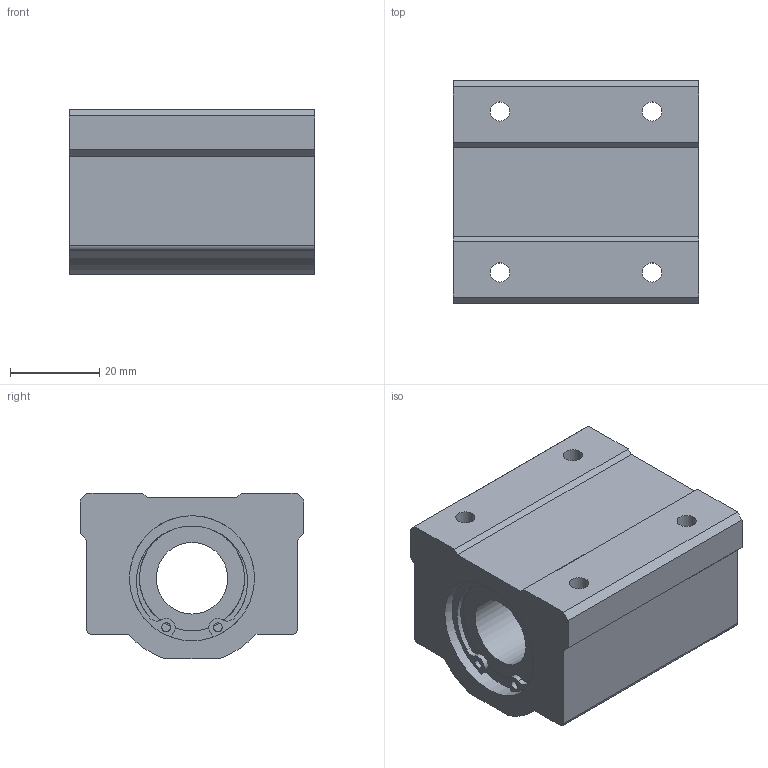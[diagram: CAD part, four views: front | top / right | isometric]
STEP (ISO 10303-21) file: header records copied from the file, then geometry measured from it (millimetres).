
FILE_DESCRIPTION((''),'2;1');
FILE_NAME('D:\製品 (図面)\カタログ用3D\メンテナンスフリー関連\STEP形式\LH-MF\LH16MF.stp','2010-06-01T16:09:13',('Tsuchiya'),(''),'Autodesk Inventor 10','Autodesk Inventor 10','');
FILE_SCHEMA(('AUTOMOTIVE_DESIGN { 1 0 10303 214 1 1 1 1 }'));
Length unit declared in the file: millimetre
Products named in the file (1): LH16MF
Bounding box: 55 x 50 x 37 mm (x, y, z)
Volume: 72673.3 mm3; surface area: 17236.7 mm2
Topology: 1 solids, 3 shells, 77 faces, 203 edges, 130 vertices
Faces by surface type: plane 40, cylinder 20, bspline 17
Full cylindrical faces by diameter (mm): 2 x2, 16 x1, 23.5 x2, 26.6 x2, 28 x4
Entity records: 2420 total; most frequent: CARTESIAN_POINT 575, DIRECTION 394, ORIENTED_EDGE 348, EDGE_CURVE 174, AXIS2_PLACEMENT_3D 159, VERTEX_POINT 118, EDGE_LOOP 114, CIRCLE 98
